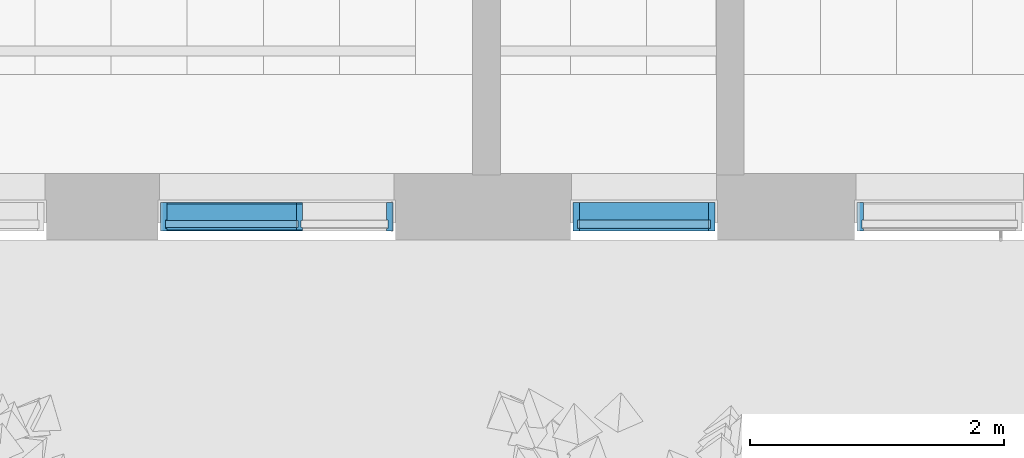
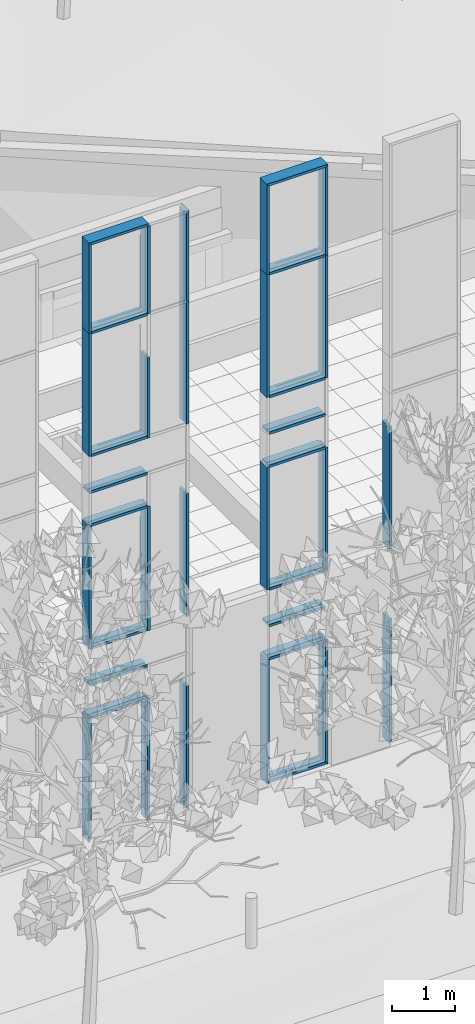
# One storey, part 26 of 246: 39 members, 3 elements without a shape of their own.
"""IFC2X3 building model written with IfcOpenShell, lengths in millimetres."""

from ifc_helpers import new_model, entity, si_unit, converted_unit, derived_unit, money_unit, direction, frame, origin_with_axes, place, context, subcontext, project, spatial, faceted_brep, source, transform, mapped, material, type_object, element, aggregate, save


model = new_model("IFC2X3")

# Units and contexts
model_context = context("Model", 3, precision=0.01, world=origin_with_axes(), true_north=direction((0.0, 1.0)))
body_context = subcontext(model_context, "Body", "Model", "MODEL_VIEW")
ifc_project = project(units=[si_unit("LENGTHUNIT", "METRE", prefix="MILLI"), si_unit("AREAUNIT", "SQUARE_METRE"), si_unit("VOLUMEUNIT", "CUBIC_METRE"), converted_unit("PLANEANGLEUNIT", "DEGREE", entity("IfcPlaneAngleMeasure", 0.0174532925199), si_unit("PLANEANGLEUNIT", "RADIAN"), dimensions=[0, 0, 0, 0, 0, 0, 0]), si_unit("SOLIDANGLEUNIT", "STERADIAN"), money_unit("EUR"), converted_unit("TIMEUNIT", "Year", entity("IfcTimeMeasure", 31556926.0), si_unit("TIMEUNIT", "SECOND"), dimensions=[0, 0, 1, 0, 0, 0, 0]), si_unit("MASSUNIT", "GRAM", prefix="KILO"), si_unit("THERMODYNAMICTEMPERATUREUNIT", "DEGREE_CELSIUS"), si_unit("LUMINOUSINTENSITYUNIT", "LUMEN"), si_unit("ENERGYUNIT", "JOULE", prefix="MEGA"), derived_unit("THERMALCONDUCTANCEUNIT", [(si_unit("POWERUNIT", "WATT"), 1), (si_unit("LENGTHUNIT", "METRE"), -1), (si_unit("THERMODYNAMICTEMPERATUREUNIT", "KELVIN"), -1)]), derived_unit("SPECIFICHEATCAPACITYUNIT", [(si_unit("ENERGYUNIT", "JOULE"), 1), (si_unit("MASSUNIT", "GRAM", prefix="KILO"), -1), (si_unit("THERMODYNAMICTEMPERATUREUNIT", "KELVIN"), -1)]), derived_unit("MASSDENSITYUNIT", [(si_unit("MASSUNIT", "GRAM", prefix="KILO"), 1), (si_unit("VOLUMEUNIT", "CUBIC_METRE"), -1)])], contexts=[model_context])

# Site, building, storey
site_placement = place(None, origin_with_axes())
site = spatial("IfcSite", under=ifc_project, at=site_placement, Name="L.Koidula tn 11b", CompositionType="ELEMENT")
building_placement = place(site_placement, origin_with_axes())
building = spatial("IfcBuilding", under=site, at=building_placement, Name="Rakvere Riigigümnaasium", CompositionType="ELEMENT")
storey_placement = place(building_placement, origin_with_axes())
storey = spatial("IfcBuildingStorey", under=building, at=storey_placement, Name="1.korrus 0,00", CompositionType="ELEMENT", Elevation=0.0)

# Curtain wall, members
curtain_wall_type = type_object("IfcCurtainWallType", Name="Curtain Wall Type", PredefinedType="NOTDEFINED")
curtain_wall_1_placement = place(storey_placement, frame((84320.1847914, 5111.45334637, -1.61944635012e-05), z_axis=(0.0, 0.0, 1.0), x_axis=(1.0, 0.0, 0.0)))
curtain_wall_1 = element("IfcCurtainWall", 1, at=curtain_wall_1_placement, inside=storey, type_object=curtain_wall_type, Name="KLF-05-1C")
ifc_material = material(Name="Alumiiniumprofiil (RAL 7021)")
member_type_1 = type_object("IfcMemberType", Name="Boundary Frame 50 x 222", PredefinedType="MULLION")
shared_shape_1 = source(origin_with_axes(), body_context, "Body", "Brep", [
    faceted_brep([(37.0, -32.5, 2375.00000025), (37.0, 32.5, 2375.00000025), (50.0, 32.5, 2375.00000025), (50.0, 53.0, 2375.00000025), (0.0, 53.0, 2375.00000025), (0.0, -169.0, 2375.00000025), (50.0, -169.0, 2375.00000025), (50.0, -32.5, 2375.00000025), (37.0, -32.5, -2.4712543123e-07), (37.0, 32.5, -2.4712543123e-07), (50.0, 32.5, -2.47125653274e-07), (50.0, 53.0, -2.47125653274e-07), (0.0, 53.0, -2.47125653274e-07), (0.0, -169.0, -2.47125653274e-07), (50.0, -169.0, -2.47125653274e-07), (50.0, -32.5, -2.47125653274e-07)], [[[0, 1, 2, 3, 4, 5, 6, 7]], [[1, 0, 8, 9]], [[10, 2, 1, 9]], [[2, 10, 11, 3]], [[12, 4, 3, 11]], [[13, 5, 4, 12]], [[14, 6, 5, 13]], [[15, 7, 6, 14]], [[0, 7, 15, 8]], [[8, 15, 14, 13, 12, 11, 10, 9]]]),
])
member_1_placement = place(curtain_wall_1_placement, frame((-560.000157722, 0.0, 6120.0), z_axis=(0.0, 0.0, -1.0), x_axis=(1.0, 0.0, 0.0)))
member_1 = element("IfcMember", 2, at=member_1_placement, type_object=member_type_1, material=ifc_material, Name="KLF-05-2C-Profiilid", ObjectType="MULLION", context=body_context, shape_type="MappedRepresentation", body=[
    mapped(shared_shape_1, transform((0.0, 0.0, 0.0))),
])
member_2_placement = place(curtain_wall_1_placement, frame((-560.000157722, 0.0, 9840.0), z_axis=(0.0, 0.0, -1.0), x_axis=(1.0, 0.0, 0.0)))
member_2 = element("IfcMember", 3, at=member_2_placement, type_object=member_type_1, material=ifc_material, Name="KLF-05-9C-Profiilid", ObjectType="MULLION", context=body_context, shape_type="MappedRepresentation", body=[
    mapped(shared_shape_1, transform((0.0, 0.0, 0.0))),
])
member_3_placement = place(curtain_wall_1_placement, frame((560.000157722, 0.0, 7465.0), z_axis=(3.53617822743e-08, 0.0, 1.0), x_axis=(-1.0, 0.0, 3.53617822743e-08)))
member_3 = element("IfcMember", 4, at=member_3_placement, type_object=member_type_1, material=ifc_material, Name="KLF-05-5C-Profiilid", ObjectType="MULLION", context=body_context, shape_type="MappedRepresentation", body=[
    mapped(shared_shape_1, transform((0.0, 0.0, 0.0))),
])
member_4_placement = place(curtain_wall_1_placement, frame((560.000157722, 0.0, 3745.0), z_axis=(0.0, 0.0, 1.0), x_axis=(-1.0, 0.0, 0.0)))
member_4 = element("IfcMember", 5, at=member_4_placement, type_object=member_type_1, material=ifc_material, Name="KLF-05-2C-Profiilid", ObjectType="MULLION", context=body_context, shape_type="MappedRepresentation", body=[
    mapped(shared_shape_1, transform((0.0, 0.0, 0.0))),
])

curtain_wall_2_placement = place(storey_placement, frame((81464.0000846, 5111.45334637, -8.09717250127e-06), z_axis=(0.0, 0.0, 1.0), x_axis=(1.0, 0.0, 0.0)))
curtain_wall_2 = element("IfcCurtainWall", 6, at=curtain_wall_2_placement, inside=storey, type_object=curtain_wall_type, Name="KLF-05-2A")
member_5_placement = place(curtain_wall_2_placement, frame((876.000206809, 0.0, 7465.0), z_axis=(-1.46874359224e-08, 0.0, 1.0), x_axis=(-1.0, 0.0, -1.46874359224e-08)))
member_5 = element("IfcMember", 7, at=member_5_placement, type_object=member_type_1, material=ifc_material, Name="KLF-05-8A-Profiilid", ObjectType="MULLION", context=body_context, shape_type="MappedRepresentation", body=[
    mapped(shared_shape_1, transform((0.0, 0.0, 0.0))),
])
member_6_placement = place(curtain_wall_2_placement, frame((876.000206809, 0.0, 3745.0), z_axis=(0.0, 0.0, 1.0), x_axis=(-1.0, 0.0, 0.0)))
member_6 = element("IfcMember", 8, at=member_6_placement, type_object=member_type_1, material=ifc_material, Name="KLF-05-5A-Profiilid", ObjectType="MULLION", context=body_context, shape_type="MappedRepresentation", body=[
    mapped(shared_shape_1, transform((0.0, 0.0, 0.0))),
])
shared_shape_2 = source(origin_with_axes(), body_context, "Body", "Brep", [
    faceted_brep([(-37.0, -32.5, 2375.0), (-50.0, -32.5, 2375.0), (-50.0, -169.0, 2375.0), (0.0, -169.0, 2375.0), (0.0, 53.0, 2375.0), (-50.0, 53.0, 2375.0), (-50.0, 32.5, 2375.0), (-37.0, 32.5, 2375.0), (-37.0, -32.5, 0.0), (-50.0, -32.5, 0.0), (-50.0, -169.0, 0.0), (0.0, -169.0, 0.0), (0.0, 53.0, 0.0), (-50.0, 53.0, 0.0), (-50.0, 32.5, 0.0), (-37.0, 32.5, 0.0)], [[[0, 1, 2, 3, 4, 5, 6, 7]], [[0, 8, 9, 1]], [[9, 10, 2, 1]], [[10, 11, 3, 2]], [[11, 12, 4, 3]], [[12, 13, 5, 4]], [[6, 5, 13, 14]], [[14, 15, 7, 6]], [[7, 15, 8, 0]], [[8, 15, 14, 13, 12, 11, 10, 9]]]),
])
member_7_placement = place(curtain_wall_2_placement, frame((-954.000087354, 0.0, 3745.0), z_axis=(0.0, 0.0, 1.0), x_axis=(-1.0, 0.0, 0.0)))
member_7 = element("IfcMember", 9, at=member_7_placement, type_object=member_type_1, material=ifc_material, Name="KLF-05-6A-Profiilid", ObjectType="MULLION", context=body_context, shape_type="MappedRepresentation", body=[
    mapped(shared_shape_2, transform((0.0, 0.0, 0.0))),
])
member_8_placement = place(curtain_wall_2_placement, frame((-954.000087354, 0.0, 7465.0), z_axis=(0.0, 0.0, 1.0), x_axis=(-1.0, 0.0, 0.0)))
member_8 = element("IfcMember", 10, at=member_8_placement, type_object=member_type_1, material=ifc_material, Name="KLF-05-3A-Profiilid", ObjectType="MULLION", context=body_context, shape_type="MappedRepresentation", body=[
    mapped(shared_shape_2, transform((0.0, 0.0, 0.0))),
])

# Curtain wall, member
curtain_wall_3_placement = place(storey_placement, frame((86440.3647921, 5111.45334637, -1.61944652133e-05), z_axis=(0.0, 0.0, 1.0), x_axis=(1.0, 0.0, 0.0)))
curtain_wall_3 = element("IfcCurtainWall", 11, at=curtain_wall_3_placement, inside=storey, type_object=curtain_wall_type, Name="KLF-05-1A")
member_9_placement = place(curtain_wall_3_placement, frame((-440.585924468, 0.0, 3745.0), z_axis=(0.0, 0.0, 1.0), x_axis=(-1.0, 0.0, 0.0)))
member_9 = element("IfcMember", 12, at=member_9_placement, type_object=member_type_1, material=ifc_material, Name="KLF-05-2A-Profiilid", ObjectType="MULLION", context=body_context, shape_type="MappedRepresentation", body=[
    mapped(shared_shape_2, transform((0.0, 0.0, 0.0))),
])

# Member
member_type_2 = type_object("IfcMemberType", Name="50 x 208", PredefinedType="MULLION")
shared_shape_3 = source(origin_with_axes(), body_context, "Body", "Brep", [
    faceted_brep([(-12.0, -27.0, 1050.00011426), (-25.0, -27.0, 1050.00011426), (-25.0, -160.0, 1050.00011426), (25.0, -160.0, 1050.00011426), (25.0, -27.0, 1050.00011426), (12.0, -27.0, 1050.00011426), (12.0, 27.0, 1050.00011426), (25.0, 27.0, 1050.00011426), (25.0, 48.0, 1050.00011426), (-25.0, 48.0, 1050.00011426), (-25.0, 27.0, 1050.00011426), (-12.0, 27.0, 1050.00011426), (-12.0, -27.0, 0.0), (-25.0, -27.0, 0.0), (-25.0, -160.0, 0.0), (25.0, -160.0, 0.0), (25.0, -27.0, 0.0), (12.0, -27.0, 0.0), (12.0, 27.0, 0.0), (25.0, 27.0, 0.0), (25.0, 48.0, 0.0), (-25.0, 48.0, 0.0), (-25.0, 27.0, 0.0), (-12.0, 27.0, 0.0)], [[[0, 1, 2, 3, 4, 5, 6, 7, 8, 9, 10, 11]], [[1, 0, 12, 13]], [[1, 13, 14, 2]], [[3, 2, 14, 15]], [[4, 3, 15, 16]], [[4, 16, 17, 5]], [[5, 17, 18, 6]], [[7, 6, 18, 19]], [[19, 20, 8, 7]], [[9, 8, 20, 21]], [[22, 10, 9, 21]], [[11, 10, 22, 23]], [[0, 11, 23, 12]], [[23, 22, 21, 20, 19, 18, 17, 16, 15, 14, 13, 12]]]),
])
member_10_placement = place(curtain_wall_2_placement, frame((-934.000201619, 0.0, 2400.0), z_axis=(1.0, 0.0, 0.0), x_axis=(0.0, 0.0, 1.0)))
member_10 = element("IfcMember", 13, at=member_10_placement, type_object=member_type_2, material=ifc_material, Name="KLF-40", ObjectType="MULLION", context=body_context, shape_type="MappedRepresentation", body=[
    mapped(shared_shape_3, transform((0.0, 0.0, 0.0))),
])

member_11_placement = place(curtain_wall_2_placement, frame((-934.000201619, 0.0, 3040.0), z_axis=(1.0, 0.0, 0.0), x_axis=(0.0, 0.0, 1.0)))
member_11 = element("IfcMember", 14, at=member_11_placement, type_object=member_type_2, material=ifc_material, Name="KLF-82", ObjectType="MULLION", context=body_context, shape_type="MappedRepresentation", body=[
    mapped(shared_shape_3, transform((0.0, 0.0, 0.0))),
])

member_12_placement = place(curtain_wall_2_placement, frame((-934.000201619, 0.0, 3745.0), z_axis=(1.0, 0.0, 0.0), x_axis=(0.0, 0.0, 1.0)))
member_12 = element("IfcMember", 15, at=member_12_placement, type_object=member_type_2, material=ifc_material, Name="KLF-84", ObjectType="MULLION", context=body_context, shape_type="MappedRepresentation", body=[
    mapped(shared_shape_3, transform((0.0, 0.0, 0.0))),
])

member_13_placement = place(curtain_wall_2_placement, frame((-934.000201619, 0.0, 6120.0), z_axis=(1.0, 0.0, 0.0), x_axis=(0.0, 0.0, 1.0)))
member_13 = element("IfcMember", 16, at=member_13_placement, type_object=member_type_2, material=ifc_material, Name="KLF-15", ObjectType="MULLION", context=body_context, shape_type="MappedRepresentation", body=[
    mapped(shared_shape_3, transform((0.0, 0.0, 0.0))),
])

member_14_placement = place(curtain_wall_2_placement, frame((-934.000201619, 0.0, 6760.0), z_axis=(1.0, 0.0, 0.0), x_axis=(0.0, 0.0, 1.0)))
member_14 = element("IfcMember", 17, at=member_14_placement, type_object=member_type_2, material=ifc_material, Name="KLF-17", ObjectType="MULLION", context=body_context, shape_type="MappedRepresentation", body=[
    mapped(shared_shape_3, transform((0.0, 0.0, 0.0))),
])

member_15_placement = place(curtain_wall_2_placement, frame((-934.000201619, 0.0, 7465.0), z_axis=(1.0, 0.0, 0.0), x_axis=(0.0, 0.0, 1.0)))
member_15 = element("IfcMember", 18, at=member_15_placement, type_object=member_type_2, material=ifc_material, Name="KLF-50", ObjectType="MULLION", context=body_context, shape_type="MappedRepresentation", body=[
    mapped(shared_shape_3, transform((0.0, 0.0, 0.0))),
])

shared_shape_4 = source(origin_with_axes(), body_context, "Body", "Brep", [
    faceted_brep([(37.0, -32.5, 1712.99983191), (37.0, 32.5, 1712.99983191), (50.0, 32.5, 1699.99983191), (50.0, 53.0, 1699.99983191), (0.0, 53.0, 1749.99983191), (0.0, -169.0, 1749.99983191), (50.0, -169.0, 1699.99983191), (50.0, -32.5, 1699.99983191), (37.0, -32.5, -2.47125875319e-07), (37.0, 32.5, -2.47125875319e-07), (50.0, 32.5, -2.47125764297e-07), (50.0, 53.0, -2.47125764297e-07), (0.0, 53.0, -2.47125764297e-07), (0.0, -169.0, -2.47125764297e-07), (50.0, -169.0, -2.47125764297e-07), (50.0, -32.5, -2.47125764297e-07)], [[[0, 1, 2, 3, 4, 5, 6, 7]], [[1, 0, 8, 9]], [[10, 2, 1, 9]], [[2, 10, 11, 3]], [[12, 4, 3, 11]], [[13, 5, 4, 12]], [[14, 6, 5, 13]], [[15, 7, 6, 14]], [[0, 7, 15, 8]], [[8, 15, 14, 13, 12, 11, 10, 9]]]),
])
member_16_placement = place(curtain_wall_1_placement, frame((560.000241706, 0.0, 9840.0), z_axis=(0.0, 0.0, 1.0), x_axis=(-1.0, 0.0, 0.0)))
member_16 = element("IfcMember", 19, at=member_16_placement, type_object=member_type_1, material=ifc_material, Name="KLF-05-6C-Profiilid", ObjectType="MULLION", context=body_context, shape_type="MappedRepresentation", body=[
    mapped(shared_shape_4, transform((0.0, 0.0, 0.0))),
])

member_17_placement = place(curtain_wall_2_placement, frame((876.000171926, 0.0, 9840.0), z_axis=(5.61334026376e-08, 0.0, 1.0), x_axis=(-1.0, 0.0, 5.61334026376e-08)))
member_17 = element("IfcMember", 20, at=member_17_placement, type_object=member_type_1, material=ifc_material, Name="KLF-05-9A-Profiilid", ObjectType="MULLION", context=body_context, shape_type="MappedRepresentation", body=[
    mapped(shared_shape_4, transform((0.0, 0.0, 0.0))),
])

shared_shape_5 = source(origin_with_axes(), body_context, "Body", "Brep", [
    faceted_brep([(37.0, -32.5, 2400.0), (37.0, 32.5, 2400.0), (50.0, 32.5, 2400.0), (50.0, 53.0, 2400.0), (0.0, 53.0, 2400.0), (0.0, -169.0, 2400.0), (50.0, -169.0, 2400.0), (50.0, -32.5, 2400.0), (37.0, -32.5, 37.0), (37.0, 32.5, 37.0), (50.0, 32.5, 50.0), (50.0, 53.0, 50.0), (0.0, 53.0, 0.0), (0.0, -169.0, 0.0), (50.0, -169.0, 50.0), (50.0, -32.5, 50.0)], [[[0, 1, 2, 3, 4, 5, 6, 7]], [[1, 0, 8, 9]], [[10, 2, 1, 9]], [[2, 10, 11, 3]], [[4, 3, 11, 12]], [[5, 4, 12, 13]], [[6, 5, 13, 14]], [[15, 7, 6, 14]], [[0, 7, 15, 8]], [[8, 15, 14, 13, 12, 11, 10, 9]]]),
])
member_18_placement = place(curtain_wall_1_placement, frame((560.000157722, 0.0, 0.0), z_axis=(0.0, 0.0, 1.0), x_axis=(-1.0, 0.0, 0.0)))
member_18 = element("IfcMember", 21, at=member_18_placement, type_object=member_type_1, material=ifc_material, Name="KLF-05-9C-Profiilid", ObjectType="MULLION", context=body_context, shape_type="MappedRepresentation", body=[
    mapped(shared_shape_5, transform((0.0, 0.0, 0.0))),
])

member_19_placement = place(curtain_wall_2_placement, frame((876.000206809, 0.0, 0.0), z_axis=(0.0, 0.0, 1.0), x_axis=(-1.0, 0.0, 0.0)))
member_19 = element("IfcMember", 22, at=member_19_placement, type_object=member_type_1, material=ifc_material, Name="KLF-05-2A-Profiilid", ObjectType="MULLION", context=body_context, shape_type="MappedRepresentation", body=[
    mapped(shared_shape_5, transform((0.0, 0.0, 0.0))),
])

member_type_3 = type_object("IfcMemberType", Name="Mullion Frame 50 x 222", PredefinedType="MULLION")
shared_shape_6 = source(origin_with_axes(), body_context, "Body", "Brep", [
    faceted_brep([(-12.0, -32.5, 1699.99983191), (-25.0, -32.5, 1699.99983191), (-25.0, -169.0, 1699.99983191), (25.0, -169.0, 1699.99983191), (25.0, -32.5, 1699.99983191), (12.0, -32.5, 1699.99983191), (12.0, 32.5, 1699.99983191), (25.0, 32.5, 1699.99983191), (25.0, 53.0, 1699.99983191), (-25.0, 53.0, 1699.99983191), (-25.0, 32.5, 1699.99983191), (-12.0, 32.5, 1699.99983191), (-12.0, -32.5, 0.0), (-25.0, -32.5, 0.0), (-25.0, -169.0, 0.0), (25.0, -169.0, 0.0), (25.0, -32.5, 0.0), (12.0, -32.5, 0.0), (12.0, 32.5, 0.0), (25.0, 32.5, 0.0), (25.0, 53.0, 0.0), (-25.0, 53.0, 0.0), (-25.0, 32.5, 0.0), (-12.0, 32.5, 0.0)], [[[0, 1, 2, 3, 4, 5, 6, 7, 8, 9, 10, 11]], [[1, 0, 12, 13]], [[1, 13, 14, 2]], [[3, 2, 14, 15]], [[4, 3, 15, 16]], [[4, 16, 17, 5]], [[5, 17, 18, 6]], [[7, 6, 18, 19]], [[19, 20, 8, 7]], [[9, 8, 20, 21]], [[22, 10, 9, 21]], [[11, 10, 22, 23]], [[0, 11, 23, 12]], [[23, 22, 21, 20, 19, 18, 17, 16, 15, 14, 13, 12]]]),
])
member_20_placement = place(curtain_wall_2_placement, frame((140.999912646, 0.0, 9840.0), z_axis=(0.0, 0.0, 1.0), x_axis=(-1.0, 0.0, 0.0)))
member_20 = element("IfcMember", 23, at=member_20_placement, type_object=member_type_3, material=ifc_material, Name="KLF-05-2A-Profiilid", ObjectType="MULLION", context=body_context, shape_type="MappedRepresentation", body=[
    mapped(shared_shape_6, transform((0.0, 0.0, 0.0))),
])

shared_shape_7 = source(origin_with_axes(), body_context, "Body", "Brep", [
    faceted_brep([(-37.0, -32.5, 2400.0), (-50.0, -32.5, 2400.0), (-50.0, -169.0, 2400.0), (0.0, -169.0, 2400.0), (0.0, 53.0, 2400.0), (-50.0, 53.0, 2400.0), (-50.0, 32.5, 2400.0), (-37.0, 32.5, 2400.0), (-37.0, -32.5, 37.0), (-50.0, -32.5, 50.0), (-50.0, -169.0, 50.0), (0.0, -169.0, 0.0), (0.0, 53.0, 0.0), (-50.0, 53.0, 50.0), (-50.0, 32.5, 50.0), (-37.0, 32.5, 37.0)], [[[0, 1, 2, 3, 4, 5, 6, 7]], [[0, 8, 9, 1]], [[9, 10, 2, 1]], [[2, 10, 11, 3]], [[3, 11, 12, 4]], [[4, 12, 13, 5]], [[6, 5, 13, 14]], [[14, 15, 7, 6]], [[7, 15, 8, 0]], [[8, 15, 14, 13, 12, 11, 10, 9]]]),
])
member_21_placement = place(curtain_wall_2_placement, frame((-954.000087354, 0.0, 0.0), z_axis=(0.0, 0.0, 1.0), x_axis=(-1.0, 0.0, 0.0)))
member_21 = element("IfcMember", 24, at=member_21_placement, type_object=member_type_1, material=ifc_material, Name="KLF-05-9A-Profiilid", ObjectType="MULLION", context=body_context, shape_type="MappedRepresentation", body=[
    mapped(shared_shape_7, transform((0.0, 0.0, 0.0))),
])

member_22_placement = place(curtain_wall_3_placement, frame((-440.585924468, 0.0, 0.0), z_axis=(0.0, 0.0, 1.0), x_axis=(-1.0, 0.0, 0.0)))
member_22 = element("IfcMember", 25, at=member_22_placement, type_object=member_type_1, material=ifc_material, Name="KLF-05-5A-Profiilid", ObjectType="MULLION", context=body_context, shape_type="MappedRepresentation", body=[
    mapped(shared_shape_7, transform((0.0, 0.0, 0.0))),
])

aggregate(curtain_wall_3, [member_22, member_9])

shared_shape_8 = source(origin_with_axes(), body_context, "Body", "Brep", [
    faceted_brep([(-37.0, -32.5, 1712.99983191), (-50.0, -32.5, 1699.99983191), (-50.0, -169.0, 1699.99983191), (0.0, -169.0, 1749.99983191), (0.0, 53.0, 1749.99983191), (-50.0, 53.0, 1699.99983191), (-50.0, 32.5, 1699.99983191), (-37.0, 32.5, 1712.99983191), (-37.0, -32.5, 0.0), (-50.0, -32.5, 0.0), (-50.0, -169.0, 0.0), (0.0, -169.0, 0.0), (0.0, 53.0, 0.0), (-50.0, 53.0, 0.0), (-50.0, 32.5, 0.0), (-37.0, 32.5, 0.0)], [[[0, 1, 2, 3, 4, 5, 6, 7]], [[0, 8, 9, 1]], [[9, 10, 2, 1]], [[10, 11, 3, 2]], [[11, 12, 4, 3]], [[12, 13, 5, 4]], [[6, 5, 13, 14]], [[14, 15, 7, 6]], [[7, 15, 8, 0]], [[8, 15, 14, 13, 12, 11, 10, 9]]]),
])
member_23_placement = place(curtain_wall_2_placement, frame((-954.000087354, 0.0, 9840.0), z_axis=(0.0, 0.0, 1.0), x_axis=(-1.0, 0.0, 0.0)))
member_23 = element("IfcMember", 26, at=member_23_placement, type_object=member_type_1, material=ifc_material, Name="KLF-05-2A-Profiilid", ObjectType="MULLION", context=body_context, shape_type="MappedRepresentation", body=[
    mapped(shared_shape_8, transform((0.0, 0.0, 0.0))),
])

member_type_4 = type_object("IfcMemberType", Name="Transom Frame 50 x 222", PredefinedType="MULLION")
shared_shape_9 = source(origin_with_axes(), body_context, "Body", "Brep", [
    faceted_brep([(-12.0, -32.5, 1070.00039943), (-25.0, -32.5, 1070.00039943), (-25.0, -169.0, 1070.00039943), (25.0, -169.0, 1070.00039943), (25.0, -32.5, 1070.00039943), (12.0, -32.5, 1070.00039943), (12.0, 32.5, 1070.00039943), (25.0, 32.5, 1070.00039943), (25.0, 53.0, 1070.00039943), (-25.0, 53.0, 1070.00039943), (-25.0, 32.5, 1070.00039943), (-12.0, 32.5, 1070.00039943), (-12.0, -32.5, 50.0000015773), (-25.0, -32.5, 50.0000015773), (-25.0, -169.0, 50.0000082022), (25.0, -169.0, 50.0000082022), (25.0, -32.5, 50.0000015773), (12.0, -32.5, 50.0000015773), (12.0, 32.5, 49.9999984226), (25.0, 32.5, 49.9999984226), (25.0, 53.0, 49.9999974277), (-25.0, 53.0, 49.9999974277), (-25.0, 32.5, 49.9999984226), (-12.0, 32.5, 49.9999984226)], [[[0, 1, 2, 3, 4, 5, 6, 7, 8, 9, 10, 11]], [[1, 0, 12, 13]], [[1, 13, 14, 2]], [[2, 14, 15, 3]], [[4, 3, 15, 16]], [[4, 16, 17, 5]], [[5, 17, 18, 6]], [[7, 6, 18, 19]], [[19, 20, 8, 7]], [[8, 20, 21, 9]], [[22, 10, 9, 21]], [[11, 10, 22, 23]], [[0, 11, 23, 12]], [[23, 22, 21, 20, 19, 18, 17, 16, 15, 14, 13, 12]]]),
])
member_24_placement = place(curtain_wall_1_placement, frame((-560.000157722, 0.0, 9840.0), z_axis=(1.0, 0.0, 0.0), x_axis=(0.0, 0.0, 1.0)))
member_24 = element("IfcMember", 27, at=member_24_placement, type_object=member_type_4, material=ifc_material, Name="KLF-05-1C-Profiilid", ObjectType="MULLION", context=body_context, shape_type="MappedRepresentation", body=[
    mapped(shared_shape_9, transform((0.0, 0.0, 0.0))),
])

member_25_placement = place(curtain_wall_1_placement, frame((-560.000157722, 0.0, 7465.0), z_axis=(1.0, 0.0, 0.0), x_axis=(0.0, 0.0, 1.0)))
member_25 = element("IfcMember", 28, at=member_25_placement, type_object=member_type_4, material=ifc_material, Name="KLF-05-1C-Profiilid", ObjectType="MULLION", context=body_context, shape_type="MappedRepresentation", body=[
    mapped(shared_shape_9, transform((0.0, 0.0, 0.0))),
])

member_26_placement = place(curtain_wall_1_placement, frame((-560.000157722, 0.0, 6760.0), z_axis=(1.0, 0.0, 0.0), x_axis=(0.0, 0.0, 1.0)))
member_26 = element("IfcMember", 29, at=member_26_placement, type_object=member_type_4, material=ifc_material, Name="KLF-05-1C-Profiilid", ObjectType="MULLION", context=body_context, shape_type="MappedRepresentation", body=[
    mapped(shared_shape_9, transform((0.0, 0.0, 0.0))),
])

member_27_placement = place(curtain_wall_1_placement, frame((-560.000157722, 0.0, 6120.0), z_axis=(1.0, 0.0, 0.0), x_axis=(0.0, 0.0, 1.0)))
member_27 = element("IfcMember", 30, at=member_27_placement, type_object=member_type_4, material=ifc_material, Name="KLF-05-1C-Profiilid", ObjectType="MULLION", context=body_context, shape_type="MappedRepresentation", body=[
    mapped(shared_shape_9, transform((0.0, 0.0, 0.0))),
])

member_28_placement = place(curtain_wall_1_placement, frame((-560.000157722, 0.0, 3745.0), z_axis=(1.0, 0.0, 0.0), x_axis=(0.0, 0.0, 1.0)))
member_28 = element("IfcMember", 31, at=member_28_placement, type_object=member_type_4, material=ifc_material, Name="KLF-05-1C-Profiilid", ObjectType="MULLION", context=body_context, shape_type="MappedRepresentation", body=[
    mapped(shared_shape_9, transform((0.0, 0.0, 0.0))),
])

member_29_placement = place(curtain_wall_1_placement, frame((-560.000157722, 0.0, 3040.0), z_axis=(1.0, 0.0, 0.0), x_axis=(0.0, 0.0, 1.0)))
member_29 = element("IfcMember", 32, at=member_29_placement, type_object=member_type_4, material=ifc_material, Name="KLF-05-1C-Profiilid", ObjectType="MULLION", context=body_context, shape_type="MappedRepresentation", body=[
    mapped(shared_shape_9, transform((0.0, 0.0, 0.0))),
])

member_30_placement = place(curtain_wall_1_placement, frame((-560.000157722, 0.0, 2400.0), z_axis=(1.0, 0.0, 0.0), x_axis=(0.0, 0.0, 1.0)))
member_30 = element("IfcMember", 33, at=member_30_placement, type_object=member_type_4, material=ifc_material, Name="KLF-05-1C-Profiilid", ObjectType="MULLION", context=body_context, shape_type="MappedRepresentation", body=[
    mapped(shared_shape_9, transform((0.0, 0.0, 0.0))),
])

shared_shape_10 = source(origin_with_axes(), body_context, "Body", "Brep", [
    faceted_brep([(-12.0, -27.0, 2400.00026018), (-25.0, -27.0, 2400.00026018), (-25.0, -160.0, 2400.00026018), (25.0, -160.0, 2400.00026018), (25.0, -27.0, 2400.00026018), (12.0, -27.0, 2400.00026018), (12.0, 27.0, 2400.00026018), (25.0, 27.0, 2400.00026018), (25.0, 48.0, 2400.00026018), (-25.0, 48.0, 2400.00026018), (-25.0, 27.0, 2400.00026018), (-12.0, 27.0, 2400.00026018), (-12.0, -27.0, 50.0), (-25.0, -27.0, 50.0), (-25.0, -160.0, 50.0), (25.0, -160.0, 50.0), (25.0, -27.0, 50.0), (12.0, -27.0, 50.0), (12.0, 27.0, 50.0), (25.0, 27.0, 50.0), (25.0, 48.0, 50.0), (-25.0, 48.0, 50.0), (-25.0, 27.0, 50.0), (-12.0, 27.0, 50.0)], [[[0, 1, 2, 3, 4, 5, 6, 7, 8, 9, 10, 11]], [[1, 0, 12, 13]], [[1, 13, 14, 2]], [[2, 14, 15, 3]], [[4, 3, 15, 16]], [[4, 16, 17, 5]], [[5, 17, 18, 6]], [[7, 6, 18, 19]], [[19, 20, 8, 7]], [[8, 20, 21, 9]], [[22, 10, 9, 21]], [[11, 10, 22, 23]], [[0, 11, 23, 12]], [[23, 22, 21, 20, 19, 18, 17, 16, 15, 14, 13, 12]]]),
])
member_31_placement = place(curtain_wall_2_placement, frame((140.999912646, 0.0, 0.0), z_axis=(0.0, 0.0, 1.0), x_axis=(-1.0, 0.0, 0.0)))
member_31 = element("IfcMember", 34, at=member_31_placement, type_object=member_type_2, material=ifc_material, Name="KLF-24", ObjectType="MULLION", context=body_context, shape_type="MappedRepresentation", body=[
    mapped(shared_shape_10, transform((0.0, 0.0, 0.0))),
])

shared_shape_11 = source(origin_with_axes(), body_context, "Body", "Brep", [
    faceted_brep([(-12.0, -27.0, 1535.0), (-25.0, -27.0, 1535.0), (-25.0, -160.0, 1535.0), (25.0, -160.0, 1535.0), (25.0, -27.0, 1535.0), (12.0, -27.0, 1535.0), (12.0, 27.0, 1535.0), (25.0, 27.0, 1535.0), (25.0, 48.0, 1535.0), (-25.0, 48.0, 1535.0), (-25.0, 27.0, 1535.0), (-12.0, 27.0, 1535.0), (-12.0, -27.0, -25.0), (-25.0, -27.0, -25.0), (-25.0, -160.0, -25.0), (25.0, -160.0, -25.0), (25.0, -27.0, -25.0), (12.0, -27.0, -25.0), (12.0, 27.0, -25.0), (25.0, 27.0, -25.0), (25.0, 48.0, -25.0), (-25.0, 48.0, -25.0), (-25.0, 27.0, -25.0), (-12.0, 27.0, -25.0)], [[[0, 1, 2, 3, 4, 5, 6, 7, 8, 9, 10, 11]], [[1, 0, 12, 13]], [[1, 13, 14, 2]], [[3, 2, 14, 15]], [[4, 3, 15, 16]], [[4, 16, 17, 5]], [[5, 17, 18, 6]], [[7, 6, 18, 19]], [[19, 20, 8, 7]], [[9, 8, 20, 21]], [[22, 10, 9, 21]], [[11, 10, 22, 23]], [[0, 11, 23, 12]], [[23, 22, 21, 20, 19, 18, 17, 16, 15, 14, 13, 12]]]),
])
member_32_placement = place(curtain_wall_2_placement, frame((140.999912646, 0.0, 7465.0), z_axis=(0.0, 0.0, 1.0), x_axis=(-1.0, 0.0, 0.0)))
member_32 = element("IfcMember", 35, at=member_32_placement, type_object=member_type_2, material=ifc_material, Name="KLF-25", ObjectType="MULLION", context=body_context, shape_type="MappedRepresentation", body=[
    mapped(shared_shape_11, transform((0.0, 0.0, 0.0))),
])

member_type_5 = type_object("IfcMemberType", Name="50 x 222", PredefinedType="MULLION")
shared_shape_12 = source(origin_with_axes(), body_context, "Body", "Brep", [
    faceted_brep([(-12.0, -27.0, 2375.0), (-25.0, -27.0, 2375.0), (-25.0, -169.0, 2375.0), (25.0, -169.0, 2375.0), (25.0, -27.0, 2375.0), (12.0, -27.0, 2375.0), (12.0, 27.0, 2375.0), (25.0, 27.0, 2375.0), (25.0, 53.0, 2375.0), (-25.0, 53.0, 2375.0), (-25.0, 27.0, 2375.0), (-12.0, 27.0, 2375.0), (-12.0, -27.0, -25.0), (-25.0, -27.0, -25.0), (-25.0, -169.0, -25.0), (25.0, -169.0, -25.0), (25.0, -27.0, -25.0), (12.0, -27.0, -25.0), (12.0, 27.0, -25.0), (25.0, 27.0, -25.0), (25.0, 53.0, -25.0), (-25.0, 53.0, -25.0), (-25.0, 27.0, -25.0), (-12.0, 27.0, -25.0)], [[[0, 1, 2, 3, 4, 5, 6, 7, 8, 9, 10, 11]], [[1, 0, 12, 13]], [[1, 13, 14, 2]], [[3, 2, 14, 15]], [[4, 3, 15, 16]], [[4, 16, 17, 5]], [[5, 17, 18, 6]], [[7, 6, 18, 19]], [[19, 20, 8, 7]], [[9, 8, 20, 21]], [[22, 10, 9, 21]], [[11, 10, 22, 23]], [[0, 11, 23, 12]], [[23, 22, 21, 20, 19, 18, 17, 16, 15, 14, 13, 12]]]),
])
member_33_placement = place(curtain_wall_2_placement, frame((140.999912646, 0.0, 3745.0), z_axis=(0.0, 0.0, 1.0), x_axis=(-1.0, 0.0, 0.0)))
member_33 = element("IfcMember", 36, at=member_33_placement, type_object=member_type_5, material=ifc_material, Name="KLF-67", ObjectType="MULLION", context=body_context, shape_type="MappedRepresentation", body=[
    mapped(shared_shape_12, transform((0.0, 0.0, 0.0))),
])

shared_shape_13 = source(origin_with_axes(), body_context, "Body", "Brep", [
    faceted_brep([(37.0, -32.5, 2363.0), (37.0, 32.5, 2363.0), (50.0, 32.5, 2350.0), (50.0, 53.0, 2350.0), (0.0, 53.0, 2400.0), (0.0, -169.0, 2400.0), (50.0, -169.0, 2350.0), (50.0, -32.5, 2350.0), (37.0, -32.5, 0.0), (37.0, 32.5, 0.0), (50.0, 32.5, 0.0), (50.0, 53.0, 0.0), (0.0, 53.0, 0.0), (0.0, -169.0, 0.0), (50.0, -169.0, 0.0), (50.0, -32.5, 0.0)], [[[0, 1, 2, 3, 4, 5, 6, 7]], [[1, 0, 8, 9]], [[10, 2, 1, 9]], [[2, 10, 11, 3]], [[12, 4, 3, 11]], [[13, 5, 4, 12]], [[14, 6, 5, 13]], [[15, 7, 6, 14]], [[0, 7, 15, 8]], [[8, 15, 14, 13, 12, 11, 10, 9]]]),
])
member_34_placement = place(curtain_wall_1_placement, frame((-560.000157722, 0.0, 2400.0), z_axis=(0.0, 0.0, -1.0), x_axis=(1.0, 0.0, 0.0)))
member_34 = element("IfcMember", 37, at=member_34_placement, type_object=member_type_1, material=ifc_material, Name="KLF-05-7C-Profiilid", ObjectType="MULLION", context=body_context, shape_type="MappedRepresentation", body=[
    mapped(shared_shape_13, transform((0.0, 0.0, 0.0))),
])

shared_shape_14 = source(origin_with_axes(), body_context, "Body", "Brep", [
    faceted_brep([(37.0, -32.5, 1749.99983313), (37.0, 32.5, 1749.99983313), (50.0, 32.5, 1749.99983313), (50.0, 53.0, 1749.99983313), (0.0, 53.0, 1749.99983313), (0.0, -169.0, 1749.99983313), (50.0, -169.0, 1749.99983313), (50.0, -32.5, 1749.99983313), (37.0, -32.5, 37.0000017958), (37.0, 32.5, 37.0000017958), (50.0, 32.5, 50.0000024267), (50.0, 53.0, 50.0000024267), (0.0, 53.0, 0.0), (0.0, -169.0, 0.0), (50.0, -169.0, 50.0000024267), (50.0, -32.5, 50.0000024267)], [[[0, 1, 2, 3, 4, 5, 6, 7]], [[1, 0, 8, 9]], [[10, 2, 1, 9]], [[2, 10, 11, 3]], [[4, 3, 11, 12]], [[5, 4, 12, 13]], [[6, 5, 13, 14]], [[15, 7, 6, 14]], [[0, 7, 15, 8]], [[8, 15, 14, 13, 12, 11, 10, 9]]]),
])
member_35_placement = place(curtain_wall_1_placement, frame((-560.000242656, 0.0, 11589.9998319), z_axis=(4.85338495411e-08, 0.0, -1.0), x_axis=(1.0, 0.0, 4.85338495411e-08)))
member_35 = element("IfcMember", 38, at=member_35_placement, type_object=member_type_1, material=ifc_material, Name="KLF-05-8C-Profiilid", ObjectType="MULLION", context=body_context, shape_type="MappedRepresentation", body=[
    mapped(shared_shape_14, transform((0.0, 0.0, 0.0))),
])

shared_shape_15 = source(origin_with_axes(), body_context, "Body", "Brep", [
    faceted_brep([(37.0, -32.5, 1083.00031544), (37.0, 32.5, 1083.00031544), (50.0, 32.5, 1070.00031544), (50.0, 53.0, 1070.00031544), (0.0, 53.0, 1120.00031544), (0.0, -169.0, 1120.00031544), (50.0, -169.0, 1070.00031544), (50.0, -32.5, 1070.00031544), (37.0, -32.5, 37.0), (37.0, 32.5, 37.0), (50.0, 32.5, 50.0), (50.0, 53.0, 50.0), (0.0, 53.0, 0.0), (0.0, -169.0, 0.0), (50.0, -169.0, 50.0), (50.0, -32.5, 50.0)], [[[0, 1, 2, 3, 4, 5, 6, 7]], [[1, 0, 8, 9]], [[10, 2, 1, 9]], [[2, 10, 11, 3]], [[4, 3, 11, 12]], [[5, 4, 12, 13]], [[6, 5, 13, 14]], [[15, 7, 6, 14]], [[0, 7, 15, 8]], [[8, 15, 14, 13, 12, 11, 10, 9]]]),
])
member_36_placement = place(curtain_wall_1_placement, frame((-560.000157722, 0.0, 0.0), z_axis=(1.0, 0.0, 0.0), x_axis=(0.0, 0.0, 1.0)))
member_36 = element("IfcMember", 39, at=member_36_placement, type_object=member_type_1, material=ifc_material, Name="KLF-05-8C-Profiilid", ObjectType="MULLION", context=body_context, shape_type="MappedRepresentation", body=[
    mapped(shared_shape_15, transform((0.0, 0.0, 0.0))),
])

member_37_placement = place(curtain_wall_1_placement, frame((560.000241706, 0.0, 11589.9998319), z_axis=(-1.0, 0.0, 0.0), x_axis=(0.0, 0.0, -1.0)))
member_37 = element("IfcMember", 40, at=member_37_placement, type_object=member_type_1, material=ifc_material, Name="KLF-05-7C-Profiilid", ObjectType="MULLION", context=body_context, shape_type="MappedRepresentation", body=[
    mapped(shared_shape_15, transform((0.0, 0.0, 0.0))),
])

aggregate(curtain_wall_1, [member_24, member_25, member_26, member_27, member_1, member_2, member_34, member_3, member_4, member_28, member_29, member_30, member_18, member_36, member_35, member_37, member_16])

shared_shape_16 = source(origin_with_axes(), body_context, "Body", "Brep", [
    faceted_brep([(-12.0, -32.5, 1070.0), (-25.0, -32.5, 1070.0), (-25.0, -169.0, 1070.0), (25.0, -169.0, 1070.0), (25.0, -32.5, 1070.0), (12.0, -32.5, 1070.0), (12.0, 32.5, 1070.0), (25.0, 32.5, 1070.0), (25.0, 53.0, 1070.0), (-25.0, 53.0, 1070.0), (-25.0, 32.5, 1070.0), (-12.0, 32.5, 1070.0), (-12.0, -32.5, 50.0), (-25.0, -32.5, 50.0), (-25.0, -169.0, 50.0), (25.0, -169.0, 50.0), (25.0, -32.5, 50.0), (12.0, -32.5, 50.0), (12.0, 32.5, 50.0), (25.0, 32.5, 50.0), (25.0, 53.0, 50.0), (-25.0, 53.0, 50.0), (-25.0, 32.5, 50.0), (-12.0, 32.5, 50.0)], [[[0, 1, 2, 3, 4, 5, 6, 7, 8, 9, 10, 11]], [[1, 0, 12, 13]], [[1, 13, 14, 2]], [[2, 14, 15, 3]], [[4, 3, 15, 16]], [[4, 16, 17, 5]], [[5, 17, 18, 6]], [[7, 6, 18, 19]], [[19, 20, 8, 7]], [[8, 20, 21, 9]], [[22, 10, 9, 21]], [[11, 10, 22, 23]], [[0, 11, 23, 12]], [[23, 22, 21, 20, 19, 18, 17, 16, 15, 14, 13, 12]]]),
])
member_38_placement = place(curtain_wall_2_placement, frame((-954.000087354, 0.0, 9840.0), z_axis=(1.0, 0.0, 0.0), x_axis=(0.0, 0.0, 1.0)))
member_38 = element("IfcMember", 41, at=member_38_placement, type_object=member_type_4, material=ifc_material, Name="KLF-05-6A-Profiilid", ObjectType="MULLION", context=body_context, shape_type="MappedRepresentation", body=[
    mapped(shared_shape_16, transform((0.0, 0.0, 0.0))),
])

shared_shape_17 = source(origin_with_axes(), body_context, "Body", "Brep", [
    faceted_brep([(37.0, -32.5, 1058.0), (37.0, 32.5, 1058.0), (50.0, 32.5, 1045.0), (50.0, 53.0, 1045.0), (0.0, 53.0, 1095.0), (0.0, -169.0, 1095.0), (50.0, -169.0, 1045.0), (50.0, -32.5, 1045.0), (37.0, -32.5, 0.0), (37.0, 32.5, 0.0), (50.0, 32.5, 0.0), (50.0, 53.0, 0.0), (0.0, 53.0, 0.0), (0.0, -169.0, 0.0), (50.0, -169.0, 0.0), (50.0, -32.5, 0.0)], [[[0, 1, 2, 3, 4, 5, 6, 7]], [[1, 0, 8, 9]], [[10, 2, 1, 9]], [[2, 10, 11, 3]], [[12, 4, 3, 11]], [[13, 5, 4, 12]], [[14, 6, 5, 13]], [[15, 7, 6, 14]], [[0, 7, 15, 8]], [[8, 15, 14, 13, 12, 11, 10, 9]]]),
])
member_39_placement = place(curtain_wall_2_placement, frame((140.999912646, 0.0, 11590.0000411), z_axis=(-1.0, 0.0, 0.0), x_axis=(0.0, 0.0, -1.0)))
member_39 = element("IfcMember", 42, at=member_39_placement, type_object=member_type_1, material=ifc_material, Name="KLF-05-1A-Profiilid", ObjectType="MULLION", context=body_context, shape_type="MappedRepresentation", body=[
    mapped(shared_shape_17, transform((0.0, 0.0, 0.0))),
])

aggregate(curtain_wall_2, [member_10, member_32, member_31, member_11, member_12, member_33, member_13, member_14, member_15, member_38, member_21, member_7, member_8, member_5, member_6, member_19, member_23, member_39, member_20, member_17])

save(model, "model.ifc")
